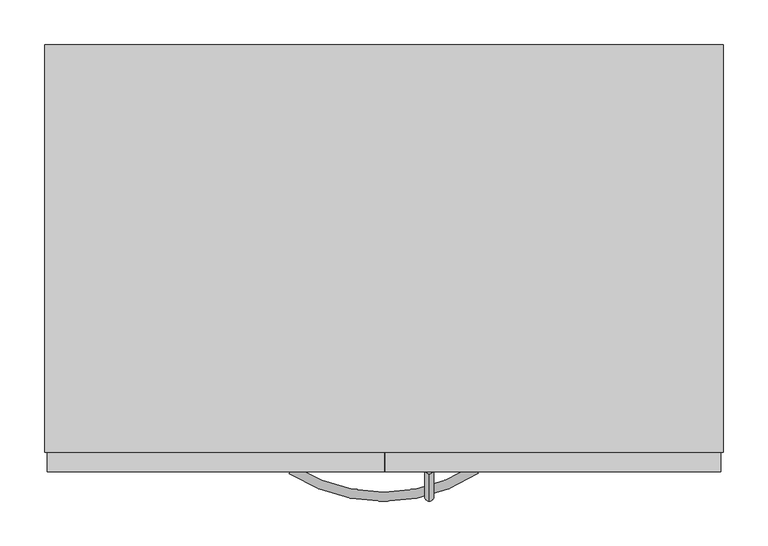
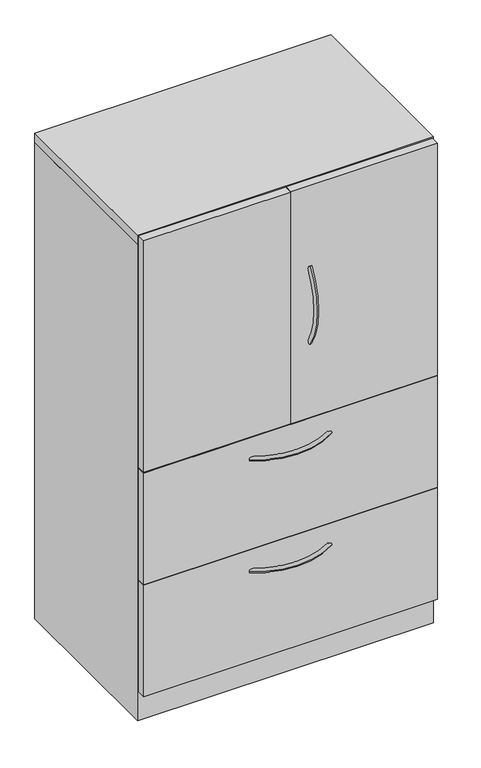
"""IFC4 building model written with IfcOpenShell, lengths in millimetres: furniture geometry, Steelcase - Universal Storage - Cabinet - Combination - Proud Steel : 52H - Hinged Doors/2 Drawers - 18 7/8D x 30W."""

from ifc_helpers import new_model, si_unit, point, frame, origin, place, context, project, spatial, polyline, circle_curve, ellipse_curve, trimmed, outline, extrude, faceted_brep, source, transform, mapped, element, save
from ifc_brep_helpers import plane_surface, revolved_surface, advanced_brep


def furniture_885ef60f(model_context):
    return source(origin(), model_context, "Body", "SolidModel", [
        extrude(outline(polyline([(758.8225413, -479.552), (3.1725353, -479.552), (3.1725353, -457.3261219), (758.8225413, -457.3261219), (758.8225413, -479.552)])), frame((0.0, 0.0, 77.724), z_axis=(0.0, 0.0, 1.0), x_axis=(1.0, 0.0, 0.0)), (0.0, 0.0, 1.0), 303.276),
        extrude(outline(polyline([(758.8225413, -479.552), (3.1725353, -479.552), (3.1725353, -457.3261219), (758.8225413, -457.3261219), (758.8225413, -479.552)])), frame((0.0, 0.0, 382.524), z_axis=(0.0, 0.0, 1.0), x_axis=(1.0, 0.0, 0.0)), (0.0, 0.0, 1.0), 303.276),
        extrude(outline(polyline([(381.0, -479.552), (3.1725353, -479.552), (3.1725353, -457.3261219), (381.0, -457.3261219), (381.0, -479.552)])), frame((0.0, 0.0, 687.7062596), z_axis=(0.0, 0.0, 1.0), x_axis=(1.0, 0.0, 0.0)), (0.0, 0.0, 1.0), 629.92),
        extrude(outline(polyline([(758.8225413, -479.552), (382.5239992, -479.552), (382.5239992, -457.3261219), (758.8225413, -457.3261219), (758.8225413, -479.552)])), frame((0.0, 0.0, 687.7062596), z_axis=(0.0, 0.0, 1.0), x_axis=(1.0, 0.0, 0.0)), (0.0, 0.0, 1.0), 629.92),
        advanced_brep(
        [(431.7682496, -481.5705994, 1099.843666), (431.7682496, -473.0108019, 1094.3705073), (431.7682496, -481.1337636, 887.5367456), (431.7682496, -472.5965612, 893.0450825)],
        [
            (0, 1, circle_curve(frame((431.7682496, -477.2907007, 1097.1070866), z_axis=(0.0, 0.5386967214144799, 0.842499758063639), x_axis=(0.0, 0.842499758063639, -0.5386967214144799)), 5.08)),
            (1, 0, circle_curve(frame((431.7682496, -477.2907007, 1097.1070866), z_axis=(0.0, 0.5386967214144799, 0.842499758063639), x_axis=(0.0, 0.842499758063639, -0.5386967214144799)), 5.08)),
            (2, 3, circle_curve(frame((431.7682496, -476.8651624, 890.2909141), z_axis=(0.0, 0.5421591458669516, -0.8402758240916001), x_axis=(0.0, 0.8402758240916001, 0.5421591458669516)), 5.08)),
            (3, 2, circle_curve(frame((431.7682496, -476.8651624, 890.2909141), z_axis=(0.0, 0.5421591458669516, -0.8402758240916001), x_axis=(0.0, 0.8402758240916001, 0.5421591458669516)), 5.08)),
            (3, 1, circle_curve(frame((431.7682496, -316.0827352, 994.0302589), z_axis=(-1.0, 0.0, 0.0), x_axis=(0.0, -0.8424997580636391, 0.5386967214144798)), 186.2648211)),
            (0, 2, circle_curve(frame((431.7682496, -316.0827352, 994.0302589), z_axis=(1.0, 0.0, 0.0), x_axis=(0.0, -0.8424997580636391, 0.5386967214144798)), 196.4248211)),
        ],
        [
            plane_surface(frame((432.5619996, -476.6365286, 1096.6888072), z_axis=(0.0, 0.5386967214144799, 0.8424997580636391), x_axis=(1.0, 0.0, 0.0))),
            plane_surface(frame((432.5619996, -476.2127171, 890.711882), z_axis=(0.0, 0.5421591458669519, -0.8402758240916), x_axis=(1.0, 0.0, 0.0))),
            revolved_surface(trimmed(ellipse_curve(frame((431.7682496, -477.2907007, 1097.1070866), z_axis=(0.0, 0.5386967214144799, 0.842499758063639), x_axis=(0.0, 0.842499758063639, -0.5386967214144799)), 5.08, 5.08), [point((431.7682496, -481.5705994, 1099.843666))], [point((431.7682496, -473.0108019, 1094.3705073))], True, "CARTESIAN"), (432.5619996, -316.0827352, 994.0302589), (1.0, 0.0, 0.0)),
            revolved_surface(trimmed(ellipse_curve(frame((431.7682496, -477.2907007, 1097.1070866), z_axis=(0.0, 0.5386967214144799, 0.842499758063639), x_axis=(0.0, 0.842499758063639, -0.5386967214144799)), 5.08, 5.08), [point((431.7682496, -473.0108019, 1094.3705073))], [point((431.7682496, -481.5705994, 1099.843666))], True, "CARTESIAN"), (432.5619996, -316.0827352, 994.0302589), (1.0, 0.0, 0.0)),
        ],
        [
            (0, [[1, 2]]),
            (1, [[3, 4]]),
            (2, [[5, -1, 6, -4]]),
            (3, [[-6, -2, -5, -3]]),
        ],
    ),
        advanced_brep(
        [(274.4245932, -481.5705994, 323.56425), (279.8977519, -473.0108019, 323.56425), (486.7315136, -481.1337636, 323.56425), (481.2231767, -472.5965612, 323.56425)],
        [
            (0, 1, circle_curve(frame((277.1611726, -477.2907007, 323.56425), z_axis=(-0.8424997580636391, 0.5386967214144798, 0.0), x_axis=(0.5386967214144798, 0.8424997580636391, 0.0)), 5.08)),
            (1, 0, circle_curve(frame((277.1611726, -477.2907007, 323.56425), z_axis=(-0.8424997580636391, 0.5386967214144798, 0.0), x_axis=(0.5386967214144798, 0.8424997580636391, 0.0)), 5.08)),
            (2, 3, circle_curve(frame((483.9773452, -476.8651624, 323.56425), z_axis=(0.8402758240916, 0.5421591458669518, 0.0), x_axis=(-0.5421591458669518, 0.8402758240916, 0.0)), 5.08)),
            (3, 2, circle_curve(frame((483.9773452, -476.8651624, 323.56425), z_axis=(0.8402758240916, 0.5421591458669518, 0.0), x_axis=(-0.5421591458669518, 0.8402758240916, 0.0)), 5.08)),
            (3, 1, circle_curve(frame((380.2380004, -316.0827352, 323.56425), z_axis=(0.0, 0.0, -1.0), x_axis=(-0.5386967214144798, -0.8424997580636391, 0.0)), 186.2648211)),
            (0, 2, circle_curve(frame((380.2380004, -316.0827352, 323.56425), z_axis=(0.0, 0.0, 1.0), x_axis=(-0.5386967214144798, -0.8424997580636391, 0.0)), 196.4248211)),
        ],
        [
            plane_surface(frame((277.5794521, -476.6365286, 324.358), z_axis=(-0.8424997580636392, 0.5386967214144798, 0.0), x_axis=(0.0, 0.0, 1.0))),
            plane_surface(frame((483.5563772, -476.2127171, 324.358), z_axis=(0.8402758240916, 0.5421591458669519, 0.0), x_axis=(0.0, 0.0, 1.0))),
            revolved_surface(trimmed(ellipse_curve(frame((277.1611726, -477.2907007, 323.56425), z_axis=(-0.8424997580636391, 0.5386967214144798, 0.0), x_axis=(0.5386967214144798, 0.8424997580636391, 0.0)), 5.08, 5.08), [point((274.4245932, -481.5705994, 323.56425))], [point((279.8977519, -473.0108019, 323.56425))], True, "CARTESIAN"), (380.2380004, -316.0827352, 324.358), (0.0, 0.0, 1.0)),
            revolved_surface(trimmed(ellipse_curve(frame((277.1611726, -477.2907007, 323.56425), z_axis=(-0.8424997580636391, 0.5386967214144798, 0.0), x_axis=(0.5386967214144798, 0.8424997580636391, 0.0)), 5.08, 5.08), [point((279.8977519, -473.0108019, 323.56425))], [point((274.4245932, -481.5705994, 323.56425))], True, "CARTESIAN"), (380.2380004, -316.0827352, 324.358), (0.0, 0.0, 1.0)),
        ],
        [
            (0, [[1, 2]]),
            (1, [[3, 4]]),
            (2, [[5, -1, 6, -4]]),
            (3, [[-6, -2, -5, -3]]),
        ],
    ),
        advanced_brep(
        [(274.4245932, -481.5705994, 627.85625), (279.8977519, -473.0108019, 627.85625), (486.7315136, -481.1337636, 627.85625), (481.2231767, -472.5965612, 627.85625)],
        [
            (0, 1, circle_curve(frame((277.1611726, -477.2907007, 627.85625), z_axis=(-0.8424997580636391, 0.5386967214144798, 0.0), x_axis=(0.5386967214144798, 0.8424997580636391, 0.0)), 5.08)),
            (1, 0, circle_curve(frame((277.1611726, -477.2907007, 627.85625), z_axis=(-0.8424997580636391, 0.5386967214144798, 0.0), x_axis=(0.5386967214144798, 0.8424997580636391, 0.0)), 5.08)),
            (2, 3, circle_curve(frame((483.9773452, -476.8651624, 627.85625), z_axis=(0.8402758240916, 0.5421591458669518, 0.0), x_axis=(-0.5421591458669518, 0.8402758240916, 0.0)), 5.08)),
            (3, 2, circle_curve(frame((483.9773452, -476.8651624, 627.85625), z_axis=(0.8402758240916, 0.5421591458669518, 0.0), x_axis=(-0.5421591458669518, 0.8402758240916, 0.0)), 5.08)),
            (3, 1, circle_curve(frame((380.2380004, -316.0827352, 627.85625), z_axis=(0.0, 0.0, -1.0), x_axis=(-0.5386967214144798, -0.8424997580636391, 0.0)), 186.2648211)),
            (0, 2, circle_curve(frame((380.2380004, -316.0827352, 627.85625), z_axis=(0.0, 0.0, 1.0), x_axis=(-0.5386967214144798, -0.8424997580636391, 0.0)), 196.4248211)),
        ],
        [
            plane_surface(frame((277.5794521, -476.6365286, 628.65), z_axis=(-0.8424997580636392, 0.5386967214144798, 0.0), x_axis=(0.0, 0.0, 1.0))),
            plane_surface(frame((483.5563772, -476.2127171, 628.65), z_axis=(0.8402758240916, 0.5421591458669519, 0.0), x_axis=(0.0, 0.0, 1.0))),
            revolved_surface(trimmed(ellipse_curve(frame((277.1611726, -477.2907007, 627.85625), z_axis=(-0.8424997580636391, 0.5386967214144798, 0.0), x_axis=(0.5386967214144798, 0.8424997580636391, 0.0)), 5.08, 5.08), [point((274.4245932, -481.5705994, 627.85625))], [point((279.8977519, -473.0108019, 627.85625))], True, "CARTESIAN"), (380.2380004, -316.0827352, 628.65), (0.0, 0.0, 1.0)),
            revolved_surface(trimmed(ellipse_curve(frame((277.1611726, -477.2907007, 627.85625), z_axis=(-0.8424997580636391, 0.5386967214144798, 0.0), x_axis=(0.5386967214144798, 0.8424997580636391, 0.0)), 5.08, 5.08), [point((279.8977519, -473.0108019, 627.85625))], [point((274.4245932, -481.5705994, 627.85625))], True, "CARTESIAN"), (380.2380004, -316.0827352, 628.65), (0.0, 0.0, 1.0)),
        ],
        [
            (0, [[1, 2]]),
            (1, [[3, 4]]),
            (2, [[5, -1, 6, -4]]),
            (3, [[-6, -2, -5, -3]]),
        ],
    ),
        faceted_brep([(25.4000008, -457.3261219, 76.2), (736.6000242, -457.3261219, 76.2), (736.6000242, -25.4000008, 76.2), (25.4000008, -25.4000008, 76.2), (762.0, 0.0, 0.0), (762.0, -457.3261219, 0.0), (0.0, -457.3261219, 0.0), (0.0, 0.0, 0.0), (0.0, 0.0, 1293.876), (762.0, 0.0, 1293.876), (0.0, -457.3261219, 1293.876), (762.0, -457.3261219, 1293.876), (736.6000242, -457.3261219, 1293.876), (25.4000008, -457.3261219, 1293.876), (736.6000242, -25.4000008, 1293.876), (25.4000008, -25.4000008, 1293.876)], [[[0, 1, 2, 3]], [[4, 5, 6, 7]], [[4, 7, 8, 9]], [[8, 7, 6, 10]], [[10, 6, 5, 11, 12, 1, 0, 13]], [[11, 5, 4, 9]], [[14, 12, 11, 9, 8, 10, 13, 15]], [[12, 14, 2, 1]], [[15, 13, 0, 3]], [[14, 15, 3, 2]]]),
        extrude(outline(polyline([(762.0, 0.0), (762.0, -457.3261219), (0.0, -457.3261219), (0.0, 0.0), (762.0, 0.0)])), frame((0.0, 0.0, 1295.3999516), z_axis=(0.0, 0.0, 1.0), x_axis=(1.0, 0.0, 0.0)), (0.0, 0.0, 1.0), 25.4000484),
    ])


if __name__ == "__main__":
    model = new_model("IFC4")
    model_context = context("Model", 3, world=origin())
    ifc_project = project(units=[si_unit("LENGTHUNIT", "METRE", prefix="MILLI")], contexts=[model_context])
    site = spatial("IfcSite", under=ifc_project)
    building = spatial("IfcBuilding", under=site)
    placement = place(None, origin())
    furniture_shape = furniture_885ef60f(model_context)
    element("IfcFurniture", 1, ObjectType="Steelcase - Universal Storage - Cabinet - Combination - Proud Steel : 52H - Hinged Doors/2 Drawers - 18 7/8D x 30W", at=placement, inside=building, context=model_context, shape_type="MappedRepresentation", body=[
        mapped(furniture_shape, transform((0.0, 0.0, 0.0), x_axis=(1.0, 0.0, 0.0), y_axis=(0.0, 1.0, 0.0), z_axis=(0.0, 0.0, 1.0))),
    ])
    save(model, "model.ifc")
